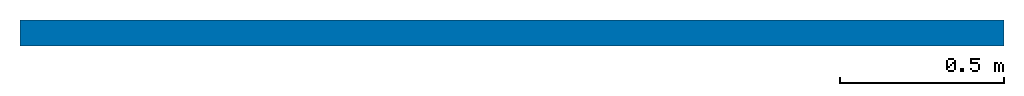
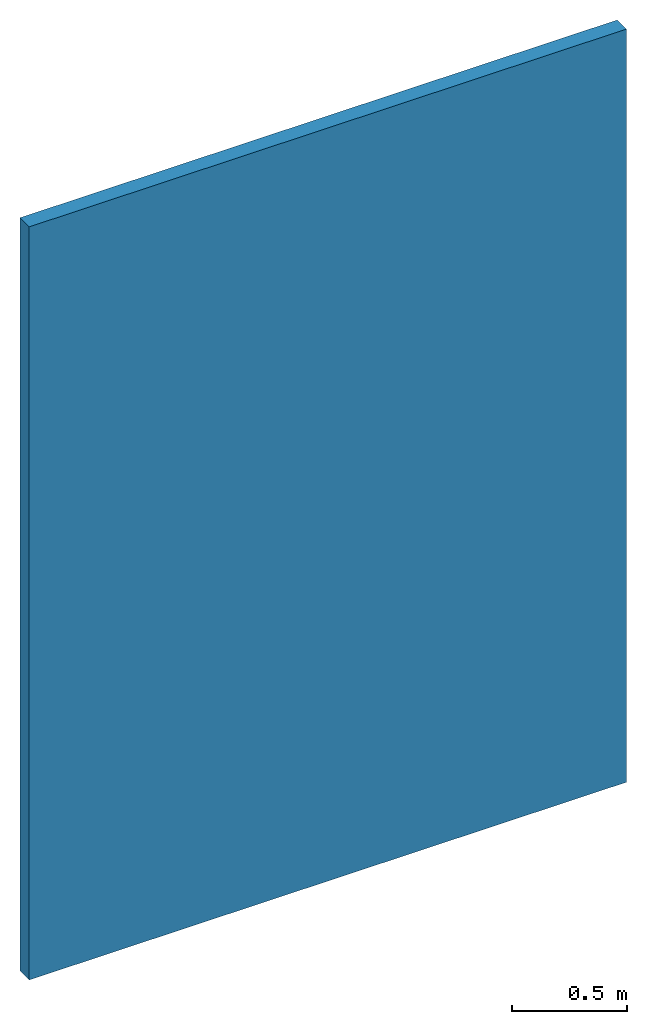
# One storey: 1 wall.
"""IFC2X3 building model written with IfcOpenShell, lengths in millimetres."""

from ifc_helpers import new_model, entity, si_unit, converted_unit, derived_unit, direction, frame, frame_2d, origin, place, context, subcontext, project, spatial, rectangle, extrude, material, layer, layer_set, layer_usage, type_object, element, save


model = new_model("IFC2X3")

# Units and contexts
model_context = context("Model", 3, precision=0.01, world=origin(), true_north=direction((6.12303176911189e-17, 1.0)))
body_context = subcontext(model_context, "Body", "Model", "MODEL_VIEW")
ifc_project = project(units=[si_unit("LENGTHUNIT", "METRE", prefix="MILLI"), si_unit("AREAUNIT", "SQUARE_METRE"), si_unit("VOLUMEUNIT", "CUBIC_METRE"), converted_unit("PLANEANGLEUNIT", "DEGREE", entity("IfcRatioMeasure", 0.0174532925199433), si_unit("PLANEANGLEUNIT", "RADIAN"), dimensions=[0, 0, 0, 0, 0, 0, 0]), si_unit("MASSUNIT", "GRAM", prefix="KILO"), si_unit("TIMEUNIT", "SECOND"), si_unit("FREQUENCYUNIT", "HERTZ"), si_unit("THERMODYNAMICTEMPERATUREUNIT", "DEGREE_CELSIUS"), derived_unit("THERMALTRANSMITTANCEUNIT", [(si_unit("MASSUNIT", "GRAM", prefix="KILO"), 1), (si_unit("THERMODYNAMICTEMPERATUREUNIT", "KELVIN"), -1), (si_unit("TIMEUNIT", "SECOND"), -3)]), derived_unit("VOLUMETRICFLOWRATEUNIT", [(si_unit("LENGTHUNIT", "METRE"), 3), (si_unit("TIMEUNIT", "SECOND"), -1)]), si_unit("ELECTRICCURRENTUNIT", "AMPERE"), si_unit("ELECTRICVOLTAGEUNIT", "VOLT"), si_unit("POWERUNIT", "WATT"), si_unit("FORCEUNIT", "NEWTON", prefix="KILO"), si_unit("ILLUMINANCEUNIT", "LUX"), si_unit("LUMINOUSFLUXUNIT", "LUMEN"), si_unit("LUMINOUSINTENSITYUNIT", "CANDELA"), derived_unit("USERDEFINED", [(si_unit("MASSUNIT", "GRAM", prefix="KILO"), -1), (si_unit("LENGTHUNIT", "METRE"), -2), (si_unit("TIMEUNIT", "SECOND"), 3), (si_unit("LUMINOUSFLUXUNIT", "LUMEN"), 1)]), derived_unit("LINEARVELOCITYUNIT", [(si_unit("LENGTHUNIT", "METRE"), 1), (si_unit("TIMEUNIT", "SECOND"), -1)]), si_unit("PRESSUREUNIT", "PASCAL"), derived_unit("USERDEFINED", [(si_unit("LENGTHUNIT", "METRE"), -2), (si_unit("MASSUNIT", "GRAM", prefix="KILO"), 1), (si_unit("TIMEUNIT", "SECOND"), -2)])], contexts=[model_context])

# Site, building, storey
site_placement = place(None, origin())
site = spatial("IfcSite", under=ifc_project, at=site_placement, Name="Default", CompositionType="ELEMENT")
building_placement = place(site_placement, origin())
building = spatial("IfcBuilding", under=site, at=building_placement, CompositionType="ELEMENT")
storey_placement = place(building_placement, origin())
storey = spatial("IfcBuildingStorey", under=building, at=storey_placement, Name="Уровень 1", CompositionType="ELEMENT", Elevation=0.0)

# Wall
ifc_material = material(Name="Кнауф-Плита пазогребневая")
ifc_layer = layer(ifc_material, 80.0)
ifc_layer_set = layer_set([ifc_layer], Name="Базовая стена:Перегородка КНАУФ ПГП 80 Применение внутри здания Одинарная ПлГ 80")
ifc_layer_usage = layer_usage(ifc_layer_set, "AXIS2", "NEGATIVE", 40.0)
wall_type = type_object("IfcWallType", Name="Базовая стена:Перегородка КНАУФ ПГП 80 Применение внутри здания Одинарная ПлГ 80", PredefinedType="STANDARD", material=ifc_layer_set)
wall_placement = place(storey_placement, frame((5781.12060997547, 1028.28801289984, 0.0)))
element("IfcWallStandardCase", 1, at=wall_placement, inside=storey, type_object=wall_type, material=ifc_layer_usage, Name="Базовая стена:Перегородка КНАУФ ПГП 80 Применение внутри здания Одинарная ПлГ 80", ObjectType="Базовая стена:Перегородка КНАУФ ПГП 80 Применение внутри здания Одинарная ПлГ 80", context=body_context, shape_type="SweptSolid", body=[
    extrude(rectangle(XDim=3000.0, YDim=80.0, at=frame_2d((1500.0, 0.0), x_axis=(-1.0, 0.0))), origin(), (0.0, 0.0, 1.0), 4000.0),
])

save(model, "model.ifc")
